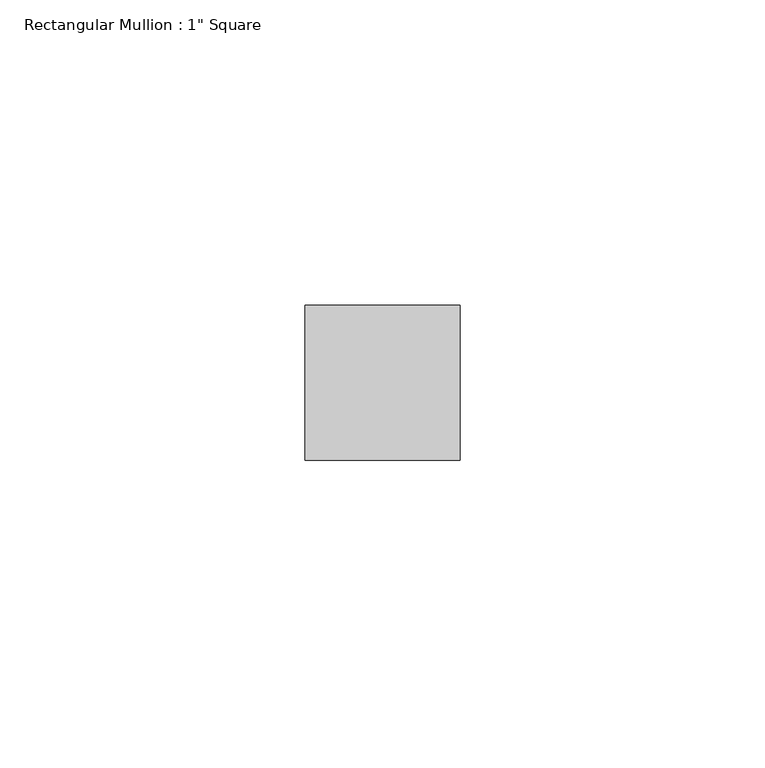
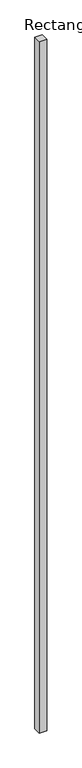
"""IFC4 building model written with IfcOpenShell, lengths in millimetres: member geometry."""

from ifc_helpers import new_model, si_unit, frame, origin, place, context, project, spatial, polyline, outline, extrude, source, transform, mapped, element, save


def member_83124ab3(model_context):
    return source(origin(), model_context, "Body", "SweptSolid", [
        extrude(outline(polyline([(12.7, 12.7), (12.7, -12.7), (-12.7, -12.7), (-12.7, 12.7), (12.7, 12.7)])), frame((0.0, 0.0, -2456.5720321), z_axis=(0.0, 0.0, 1.0), x_axis=(1.0, 0.0, 0.0)), (0.0, 0.0, 1.0), 2456.5720321),
    ])


if __name__ == "__main__":
    model = new_model("IFC4")
    model_context = context("Model", 3, world=origin())
    ifc_project = project(units=[si_unit("LENGTHUNIT", "METRE", prefix="MILLI")], contexts=[model_context])
    site = spatial("IfcSite", under=ifc_project)
    building = spatial("IfcBuilding", under=site)
    placement = place(None, origin())
    member_shape = member_83124ab3(model_context)
    element("IfcMember", 1, ObjectType="Rectangular Mullion : 1\" Square", at=placement, inside=building, context=model_context, shape_type="MappedRepresentation", body=[
        mapped(member_shape, transform((0.0, 0.0, 0.0), x_axis=(1.0, 0.0, 0.0), y_axis=(0.0, 1.0, 0.0), z_axis=(0.0, 0.0, 1.0))),
    ])
    save(model, "model.ifc")
